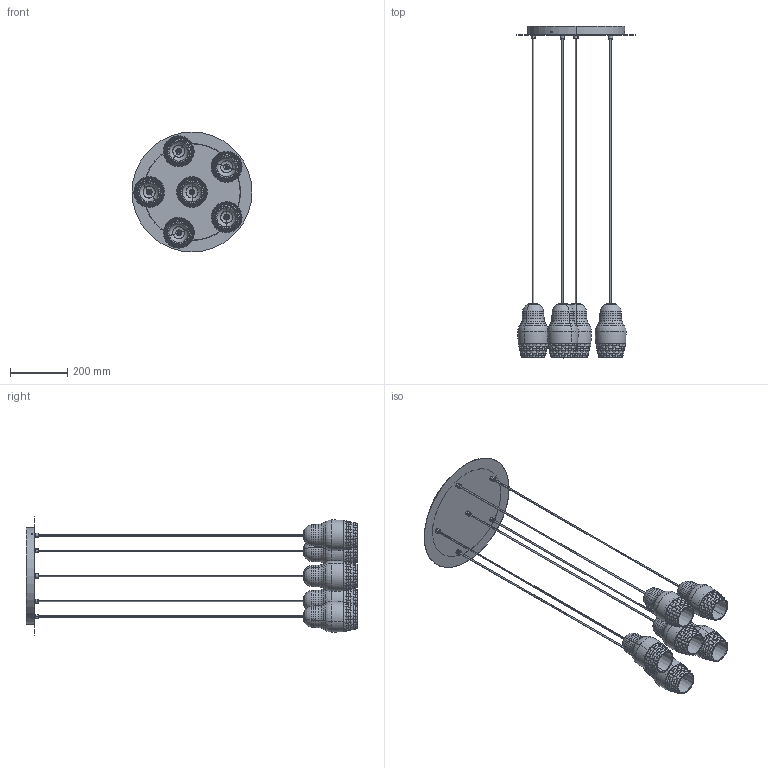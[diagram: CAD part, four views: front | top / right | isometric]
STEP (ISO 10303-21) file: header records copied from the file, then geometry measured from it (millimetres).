
FILE_DESCRIPTION (( 'STEP AP203' ), '1' );
FILE_NAME ('SPFEDORA06-PER 3D.STEP', '2024-05-29T15:04:21', ( '' ), ( '' ), 'SwSTEP 2.0', 'SolidWorks 2024', '' );
FILE_SCHEMA (( 'CONFIG_CONTROL_DESIGN' ));
Length unit declared in the file: millimetre
Products named in the file (11): FEDORA-SP-WIRE-CE-3.5M_默认; FEDORA-SP12-4-05; FEDORA-SP6-3; FEDORA-SP1-1; FEDORA-SP1-1-5-1-01; FEDORA-SP1-1-5-01; SPFEDORA06-PER 3D; FEDORA-SP6-3-01_Default<按加工>; FEDORA-SP1-1-5-1; FEDORA-SP6-3-03; FEDORA-SP1-1-5
Assembly tree (25 placements, depth 4):
  SPFEDORA06-PER 3D
    FEDORA-SP6-3
      FEDORA-SP6-3-01_Default<按加工>
      FEDORA-SP6-3-03
      FEDORA-SP12-4-05  x6
    FEDORA-SP1-1  x6
      FEDORA-SP-WIRE-CE-3.5M_默认
    FEDORA-SP1-1-5  x6
      FEDORA-SP1-1-5-1
        FEDORA-SP1-1-5-1-01
      FEDORA-SP1-1-5-01
Bounding box: 420 x 1162.53 x 420 mm (x, y, z)
Volume: 1805436.7 mm3; surface area: 1413228.3 mm2
Topology: 27 solids, 27 shells, 2168 faces, 5369 edges, 3268 vertices
Faces by surface type: bspline 1206, torus 608, cylinder 169, cone 96, plane 89
Entity records: 30405 total; most frequent: CARTESIAN_POINT 19822, ORIENTED_EDGE 2108, DIRECTION 1525, EDGE_CURVE 1054, VERTEX_POINT 648, AXIS2_PLACEMENT_3D 627, EDGE_LOOP 466, FACE_OUTER_BOUND 423
